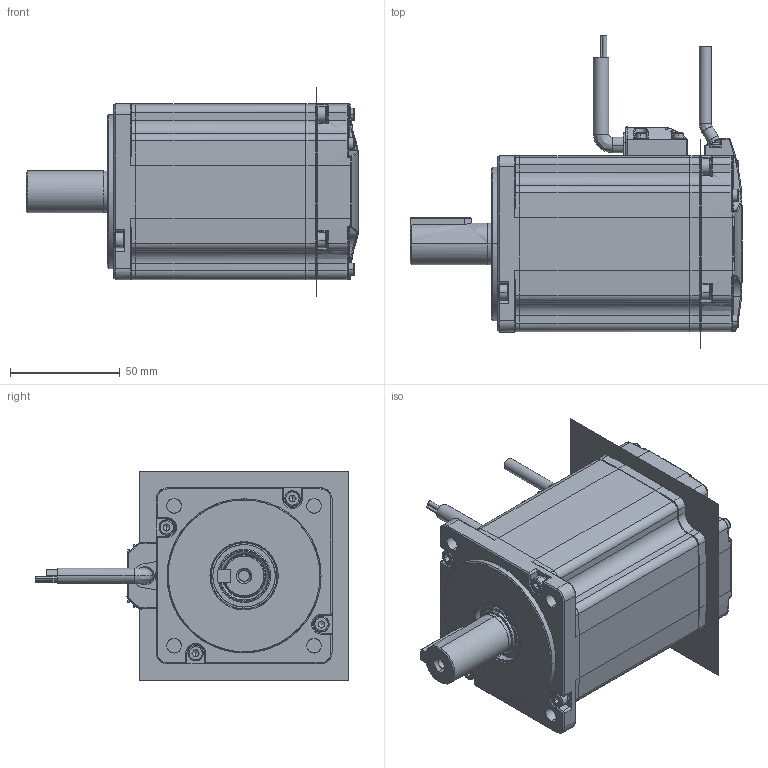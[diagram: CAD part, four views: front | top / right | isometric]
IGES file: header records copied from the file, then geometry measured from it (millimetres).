
Global section: file name: G:\00 graphics WIP\DX web info\3D drawings of EM3A\MXL-08A0830LA222\MXL-08A0830LA222.igs; native system: Rhinoceros ( May 22 2017 ); preprocessor: Trout Lake IGES 012 May 22 2017; author: Trio-MK; date: 200721.143052; units: millimetre
Bounding box: 151 x 142.64 x 95.46 mm (x, y, z)
Surface area: 68107.9 mm2 (no closed solid volume)
Topology: 0 solids, 0 shells, 894 faces, 8394 edges, 8359 vertices
Faces by surface type: bspline 894
